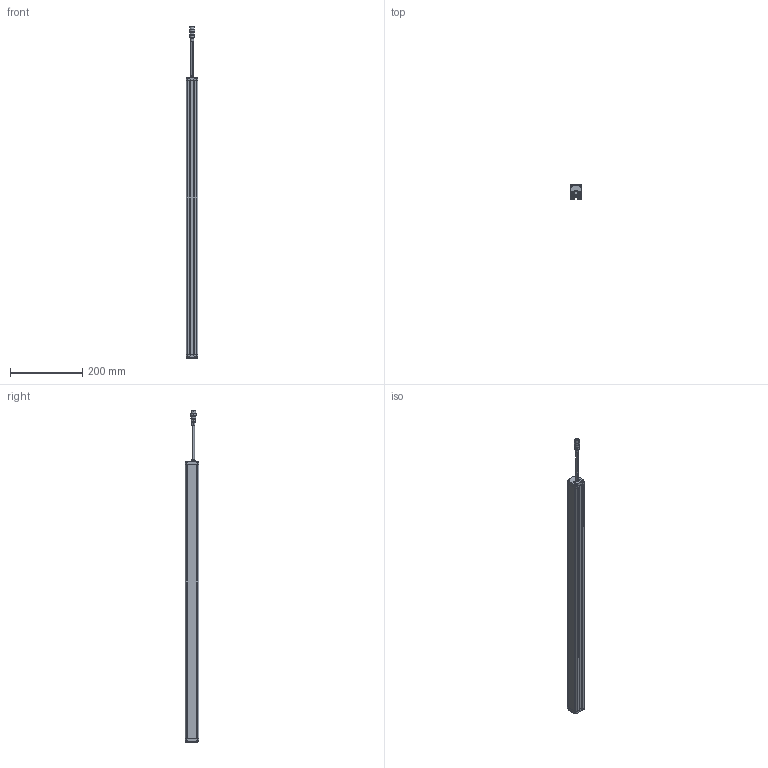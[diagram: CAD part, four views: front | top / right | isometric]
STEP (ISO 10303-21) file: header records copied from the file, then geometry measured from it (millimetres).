
FILE_DESCRIPTION((''),'2;1');
FILE_NAME('PRT0019','2026-03-31T10:59:04',('Administrator'),(''),'CREO PARAMETRIC BY PTC INC, 2016510','CREO PARAMETRIC BY PTC INC, 2016510','');
FILE_SCHEMA(('AUTOMOTIVE_DESIGN { 1 0 10303 214 1 1 1 1 }'));
Length unit declared in the file: millimetre
Products named in the file (1): PRT0019
Bounding box: 33 x 38 x 921.9 mm (x, y, z)
Surface area: 176178.6 mm2 (no closed solid volume)
Topology: 0 solids, 12 shells, 819 faces, 2193 edges, 1393 vertices
Faces by surface type: plane 388, cylinder 235, extrusion 88, sphere 40, torus 36, cone 28, bspline 4
Entity records: 32441 total; most frequent: CARTESIAN_POINT 6123, ORIENTED_EDGE 4282, DIRECTION 4048, EDGE_CURVE 2141, VERTEX_POINT 1393, AXIS2_PLACEMENT_3D 1377, VECTOR 1294, LINE 1206
